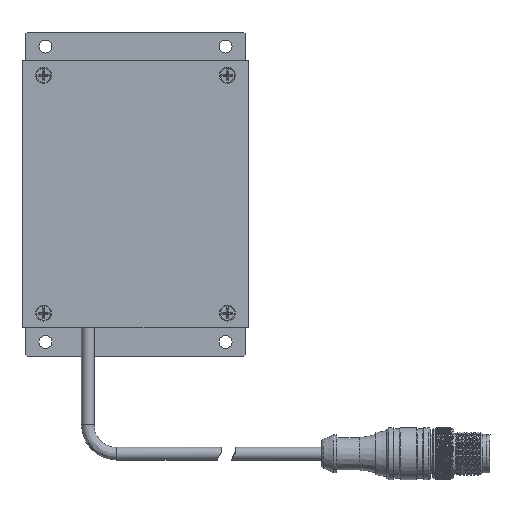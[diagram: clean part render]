
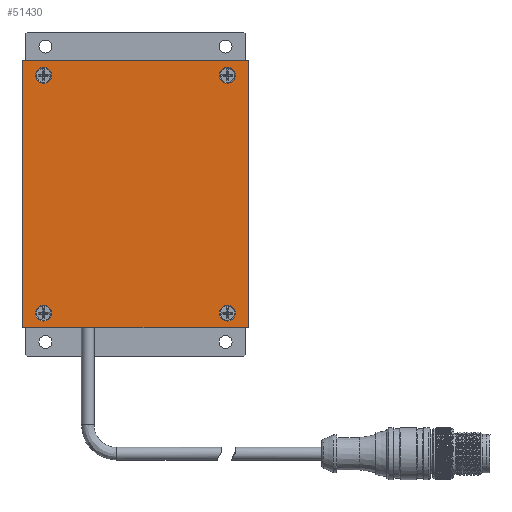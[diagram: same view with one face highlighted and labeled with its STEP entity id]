
A CAD part, top view. The second image highlights one B-rep face of the part: STEP entity #51430.
In plain terms, the highlighted planar face has unit normal (0, 0, 1).
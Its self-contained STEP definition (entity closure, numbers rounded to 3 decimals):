
#4654 = AXIS2_PLACEMENT_3D ( 'NONE', #18715, #18725, #18731 ) ;
#5524 = VECTOR ( 'NONE', #59823, 1000. ) ;
#5601 = VECTOR ( 'NONE', #60203, 1000. ) ;
#5626 = CIRCLE ( 'NONE', #5659, 2.2 ) ;
#5634 = CIRCLE ( 'NONE', #5693, 2.2 ) ;
#5659 = AXIS2_PLACEMENT_3D ( 'NONE', #60056, #60093, #60098 ) ;
#5666 = AXIS2_PLACEMENT_3D ( 'NONE', #60109, #60045, #60074 ) ;
#5676 = CIRCLE ( 'NONE', #5666, 2.2 ) ;
#5693 = AXIS2_PLACEMENT_3D ( 'NONE', #59908, #59893, #59897 ) ;
#5698 = VECTOR ( 'NONE', #59878, 1000. ) ;
#5704 = VECTOR ( 'NONE', #60189, 1000. ) ;
#5742 = AXIS2_PLACEMENT_3D ( 'NONE', #60313, #60303, #60327 ) ;
#5761 = VECTOR ( 'NONE', #60274, 1000. ) ;
#5785 = VECTOR ( 'NONE', #60477, 1000. ) ;
#5790 = VECTOR ( 'NONE', #60311, 1000. ) ;
#5821 = CIRCLE ( 'NONE', #5742, 2.2 ) ;
#5823 = VECTOR ( 'NONE', #60487, 1000. ) ;
#16512 = EDGE_LOOP ( 'NONE', ( #21598 ) ) ;
#16562 = EDGE_LOOP ( 'NONE', ( #21611, #21575, #21599, #20276, #20287, #21613, #21602, #21604 ) ) ;
#16574 = EDGE_LOOP ( 'NONE', ( #21628 ) ) ;
#16575 = EDGE_LOOP ( 'NONE', ( #21619 ) ) ;
#16597 = EDGE_LOOP ( 'NONE', ( #21574 ) ) ;
#18713 = FACE_BOUND ( 'NONE', #16575, .T. ) ;
#18714 = PLANE ( 'NONE',  #4654 ) ;
#18715 = CARTESIAN_POINT ( 'NONE',  ( -31.5, -37., 15. ) ) ;
#18724 = FACE_BOUND ( 'NONE', #16574, .T. ) ;
#18725 = DIRECTION ( 'NONE',  ( 0., 0., 1. ) ) ;
#18731 = DIRECTION ( 'NONE',  ( 1., 0., 0. ) ) ;
#18740 = FACE_OUTER_BOUND ( 'NONE', #16562, .T. ) ;
#18743 = FACE_BOUND ( 'NONE', #16597, .T. ) ;
#18754 = FACE_BOUND ( 'NONE', #16512, .T. ) ;
#20276 = ORIENTED_EDGE ( 'NONE', *, *, #77397, .T. ) ;
#20287 = ORIENTED_EDGE ( 'NONE', *, *, #77588, .T. ) ;
#21574 = ORIENTED_EDGE ( 'NONE', *, *, #77492, .F. ) ;
#21575 = ORIENTED_EDGE ( 'NONE', *, *, #77545, .T. ) ;
#21598 = ORIENTED_EDGE ( 'NONE', *, *, #77587, .F. ) ;
#21599 = ORIENTED_EDGE ( 'NONE', *, *, #77439, .T. ) ;
#21602 = ORIENTED_EDGE ( 'NONE', *, *, #77626, .T. ) ;
#21604 = ORIENTED_EDGE ( 'NONE', *, *, #77552, .T. ) ;
#21611 = ORIENTED_EDGE ( 'NONE', *, *, #77534, .T. ) ;
#21613 = ORIENTED_EDGE ( 'NONE', *, *, #77624, .T. ) ;
#21619 = ORIENTED_EDGE ( 'NONE', *, *, #77452, .F. ) ;
#21628 = ORIENTED_EDGE ( 'NONE', *, *, #77491, .F. ) ;
#33580 = VERTEX_POINT ( 'NONE', #33605 ) ;
#33605 = CARTESIAN_POINT ( 'NONE',  ( -23.3, -33., 15. ) ) ;
#33644 = VERTEX_POINT ( 'NONE', #33700 ) ;
#33678 = CARTESIAN_POINT ( 'NONE',  ( 27.7, 33., 15. ) ) ;
#33690 = CARTESIAN_POINT ( 'NONE',  ( 27.7, -33., 15. ) ) ;
#33691 = VERTEX_POINT ( 'NONE', #33690 ) ;
#33700 = CARTESIAN_POINT ( 'NONE',  ( -23.3, 33., 15. ) ) ;
#33704 = VERTEX_POINT ( 'NONE', #33678 ) ;
#50186 = CARTESIAN_POINT ( 'NONE',  ( 31.5, -36.5, 15. ) ) ;
#50194 = CARTESIAN_POINT ( 'NONE',  ( 31., -37., 15. ) ) ;
#50226 = CARTESIAN_POINT ( 'NONE',  ( -31.5, 36.5, 15. ) ) ;
#50277 = CARTESIAN_POINT ( 'NONE',  ( -31.5, -36.5, 15. ) ) ;
#50634 = CARTESIAN_POINT ( 'NONE',  ( -31., -37., 15. ) ) ;
#50651 = CARTESIAN_POINT ( 'NONE',  ( 31., 37., 15. ) ) ;
#50653 = CARTESIAN_POINT ( 'NONE',  ( 31.5, 36.5, 15. ) ) ;
#50705 = CARTESIAN_POINT ( 'NONE',  ( -31., 37., 15. ) ) ;
#51430 = ADVANCED_FACE ( 'NONE', ( #18724, #18713, #18754, #18743, #18740 ), #18714, .T. ) ;
#55574 = VERTEX_POINT ( 'NONE', #50194 ) ;
#55604 = VERTEX_POINT ( 'NONE', #50226 ) ;
#55664 = VERTEX_POINT ( 'NONE', #50186 ) ;
#55713 = VERTEX_POINT ( 'NONE', #50277 ) ;
#59714 = LINE ( 'NONE', #59731, #5524 ) ;
#59731 = CARTESIAN_POINT ( 'NONE',  ( 36.75, 31.25, 15. ) ) ;
#59823 = DIRECTION ( 'NONE',  ( -0.707, 0.707, 0. ) ) ;
#59876 = LINE ( 'NONE', #59919, #5698 ) ;
#59878 = DIRECTION ( 'NONE',  ( 0., 1., 0. ) ) ;
#59893 = DIRECTION ( 'NONE',  ( 0., 0., 1. ) ) ;
#59897 = DIRECTION ( 'NONE',  ( 1., 0., 0. ) ) ;
#59908 = CARTESIAN_POINT ( 'NONE',  ( -25.5, -33., 15. ) ) ;
#59919 = CARTESIAN_POINT ( 'NONE',  ( 31.5, 37., 15. ) ) ;
#60045 = DIRECTION ( 'NONE',  ( 0., 0., 1. ) ) ;
#60056 = CARTESIAN_POINT ( 'NONE',  ( 25.5, 33., 15. ) ) ;
#60074 = DIRECTION ( 'NONE',  ( 1., 0., 0. ) ) ;
#60093 = DIRECTION ( 'NONE',  ( 0., 0., 1. ) ) ;
#60098 = DIRECTION ( 'NONE',  ( 1., 0., 0. ) ) ;
#60109 = CARTESIAN_POINT ( 'NONE',  ( -25.5, 33., 15. ) ) ;
#60122 = LINE ( 'NONE', #60187, #5601 ) ;
#60147 = LINE ( 'NONE', #60163, #5704 ) ;
#60163 = CARTESIAN_POINT ( 'NONE',  ( -0.25, -68.25, 15. ) ) ;
#60183 = LINE ( 'NONE', #60229, #5761 ) ;
#60187 = CARTESIAN_POINT ( 'NONE',  ( -31.5, -37., 15. ) ) ;
#60189 = DIRECTION ( 'NONE',  ( 0.707, 0.707, 0. ) ) ;
#60203 = DIRECTION ( 'NONE',  ( 1., 0., 0. ) ) ;
#60229 = CARTESIAN_POINT ( 'NONE',  ( -31.25, -36.75, 15. ) ) ;
#60274 = DIRECTION ( 'NONE',  ( 0.707, -0.707, 0. ) ) ;
#60303 = DIRECTION ( 'NONE',  ( 0., 0., 1. ) ) ;
#60311 = DIRECTION ( 'NONE',  ( -1., 0., 0. ) ) ;
#60313 = CARTESIAN_POINT ( 'NONE',  ( 25.5, -33., 15. ) ) ;
#60318 = LINE ( 'NONE', #60330, #5790 ) ;
#60327 = DIRECTION ( 'NONE',  ( 1., 0., 0. ) ) ;
#60330 = CARTESIAN_POINT ( 'NONE',  ( -31.5, 37., 15. ) ) ;
#60366 = VERTEX_POINT ( 'NONE', #50651 ) ;
#60415 = CARTESIAN_POINT ( 'NONE',  ( -31.5, 37., 15. ) ) ;
#60431 = CARTESIAN_POINT ( 'NONE',  ( -68.25, -0.25, 15. ) ) ;
#60458 = LINE ( 'NONE', #60415, #5785 ) ;
#60471 = LINE ( 'NONE', #60431, #5823 ) ;
#60477 = DIRECTION ( 'NONE',  ( 0., -1., 0. ) ) ;
#60487 = DIRECTION ( 'NONE',  ( -0.707, -0.707, 0. ) ) ;
#61449 = VERTEX_POINT ( 'NONE', #50653 ) ;
#61455 = VERTEX_POINT ( 'NONE', #50705 ) ;
#65434 = VERTEX_POINT ( 'NONE', #50634 ) ;
#77397 = EDGE_CURVE ( 'NONE', #61449, #60366, #59714, .T. ) ;
#77439 = EDGE_CURVE ( 'NONE', #55664, #61449, #59876, .T. ) ;
#77452 = EDGE_CURVE ( 'NONE', #33580, #33580, #5634, .T. ) ;
#77491 = EDGE_CURVE ( 'NONE', #33644, #33644, #5676, .T. ) ;
#77492 = EDGE_CURVE ( 'NONE', #33704, #33704, #5626, .T. ) ;
#77534 = EDGE_CURVE ( 'NONE', #65434, #55574, #60122, .T. ) ;
#77545 = EDGE_CURVE ( 'NONE', #55574, #55664, #60147, .T. ) ;
#77552 = EDGE_CURVE ( 'NONE', #55713, #65434, #60183, .T. ) ;
#77587 = EDGE_CURVE ( 'NONE', #33691, #33691, #5821, .T. ) ;
#77588 = EDGE_CURVE ( 'NONE', #60366, #61455, #60318, .T. ) ;
#77624 = EDGE_CURVE ( 'NONE', #61455, #55604, #60471, .T. ) ;
#77626 = EDGE_CURVE ( 'NONE', #55604, #55713, #60458, .T. ) ;
